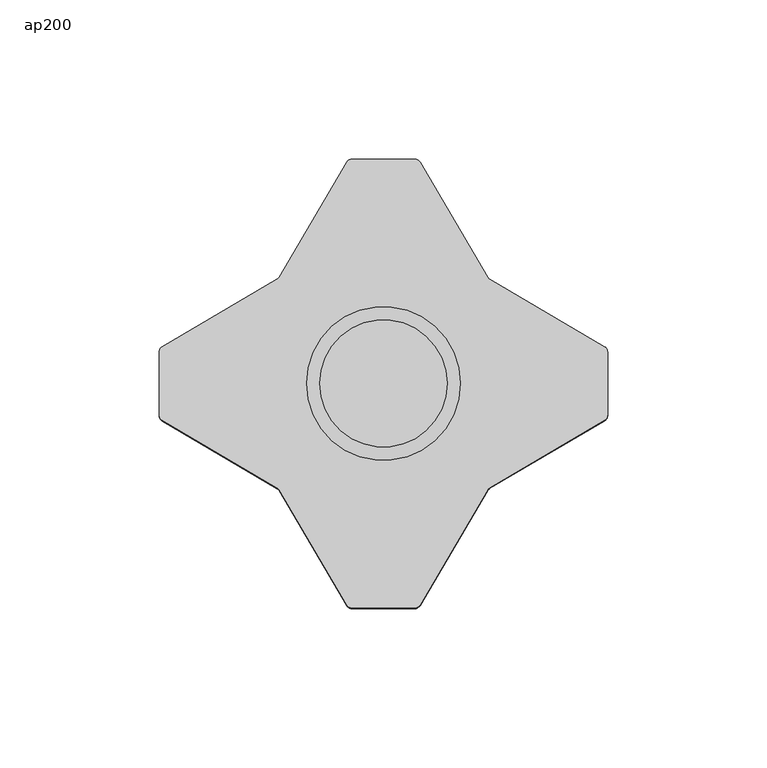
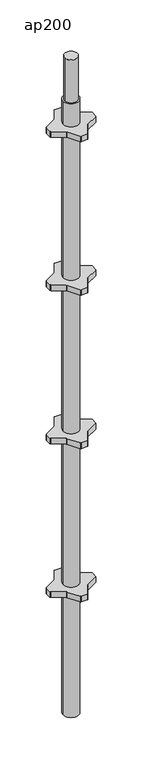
"""IFC4 building model written with IfcOpenShell, lengths in millimetres: proxy geometry, MILLS_ACRAM_POTEAUX  : ap200."""

from ifc_helpers import new_model, si_unit, point, frame, frame_2d, origin, place, context, project, spatial, polyline, circle_curve, trimmed, segment, composite_curve, outline, extrude, source, transform, mapped, element, save


def ap200_66a3c585(model_context):
    return source(origin(), model_context, "Body", "SweptSolid", [
        extrude(outline(composite_curve([segment(trimmed(circle_curve(frame_2d((-69.4239115, 68.5)), 2.0), [point((-69.4239115, 70.5))], [point((-67.6988617, 69.5120292))], False, "CARTESIAN"), True, "CONTINUOUS"), segment(polyline([(-67.6988617, 69.5120292), (-46.5421091, 33.4493827)]), True, "CONTINUOUS"), segment(trimmed(circle_curve(frame_2d((-44.8170593, 34.4614119)), 2.0), [point((-46.5421091, 33.4493827))], [point((-45.8290885, 32.7363621))], True, "CARTESIAN"), True, "CONTINUOUS"), segment(polyline([(-45.8290885, 32.7363621), (-9.7948682, 11.5962862)]), True, "CONTINUOUS"), segment(trimmed(circle_curve(frame_2d((-10.8068975, 9.8712364)), 2.0), [point((-9.7948682, 11.5962862))], [point((-8.8068975, 9.8712364))], False, "CARTESIAN"), True, "CONTINUOUS"), segment(polyline([(-8.8068975, 9.8712364), (-8.8068975, -9.8545597)]), True, "CONTINUOUS"), segment(trimmed(circle_curve(frame_2d((-10.8068975, -9.8545597)), 2.0), [point((-8.8068975, -9.8545597))], [point((-9.7948682, -11.5796095))], False, "CARTESIAN"), True, "CONTINUOUS"), segment(polyline([(-9.7948682, -11.5796095), (-45.8141703, -32.7109334)]), True, "CONTINUOUS"), segment(trimmed(circle_curve(frame_2d((-44.8021411, -34.4359832)), 2.0), [point((-45.8141703, -32.7109334))], [point((-46.5271909, -33.423954))], True, "CARTESIAN"), True, "CONTINUOUS"), segment(polyline([(-46.5271909, -33.423954), (-67.6988617, -69.5120292)]), True, "CONTINUOUS"), segment(trimmed(circle_curve(frame_2d((-69.4239115, -68.5)), 2.0), [point((-67.6988617, -69.5120292))], [point((-69.4239115, -70.5))], False, "CARTESIAN"), True, "CONTINUOUS"), segment(polyline([(-69.4239115, -70.5), (-89.1330309, -70.5)]), True, "CONTINUOUS"), segment(trimmed(circle_curve(frame_2d((-89.1330309, -68.5)), 2.0), [point((-89.1330309, -70.5))], [point((-90.8580808, -69.5120292))], False, "CARTESIAN"), True, "CONTINUOUS"), segment(polyline([(-90.8580808, -69.5120292), (-112.0148334, -33.4493827)]), True, "CONTINUOUS"), segment(trimmed(circle_curve(frame_2d((-113.7398832, -34.4614119)), 2.0), [point((-112.0148334, -33.4493827))], [point((-112.727854, -32.7363621))], True, "CARTESIAN"), True, "CONTINUOUS"), segment(polyline([(-112.727854, -32.7363621), (-148.7905005, -11.5796095)]), True, "CONTINUOUS"), segment(trimmed(circle_curve(frame_2d((-147.7784712, -9.8545597)), 2.0), [point((-148.7905005, -11.5796095))], [point((-149.7784712, -9.8545597))], False, "CARTESIAN"), True, "CONTINUOUS"), segment(polyline([(-149.7784712, -9.8545597), (-149.7784712, 9.8545597)]), True, "CONTINUOUS"), segment(trimmed(circle_curve(frame_2d((-147.7784712, 9.8545597)), 2.0), [point((-149.7784712, 9.8545597))], [point((-148.7905005, 11.5796095))], False, "CARTESIAN"), True, "CONTINUOUS"), segment(polyline([(-148.7905005, 11.5796095), (-112.727854, 32.7363621)]), True, "CONTINUOUS"), segment(trimmed(circle_curve(frame_2d((-113.7398832, 34.4614119)), 2.0), [point((-112.727854, 32.7363621))], [point((-112.0148334, 33.4493827))], True, "CARTESIAN"), True, "CONTINUOUS"), segment(polyline([(-112.0148334, 33.4493827), (-90.8580808, 69.5120292)]), True, "CONTINUOUS"), segment(trimmed(circle_curve(frame_2d((-89.1330309, 68.5)), 2.0), [point((-90.8580808, 69.5120292))], [point((-89.1330309, 70.5))], False, "CARTESIAN"), True, "CONTINUOUS"), segment(polyline([(-89.1330309, 70.5), (-69.4239115, 70.5)]), True, "CONTINUOUS")], self_intersect=False)), frame((0.0, 0.0, 1991.0), z_axis=(0.0, 0.0, 1.0), x_axis=(1.0, 0.0, 0.0)), (0.0, 0.0, 1.0), 18.0),
        extrude(outline(composite_curve([segment(trimmed(circle_curve(frame_2d((-69.4239115, 68.5)), 2.0), [point((-69.4239115, 70.5))], [point((-67.6988617, 69.5120292))], False, "CARTESIAN"), True, "CONTINUOUS"), segment(polyline([(-67.6988617, 69.5120292), (-46.5421091, 33.4493827)]), True, "CONTINUOUS"), segment(trimmed(circle_curve(frame_2d((-44.8170593, 34.4614119)), 2.0), [point((-46.5421091, 33.4493827))], [point((-45.8290885, 32.7363621))], True, "CARTESIAN"), True, "CONTINUOUS"), segment(polyline([(-45.8290885, 32.7363621), (-9.7948682, 11.5962862)]), True, "CONTINUOUS"), segment(trimmed(circle_curve(frame_2d((-10.8068975, 9.8712364)), 2.0), [point((-9.7948682, 11.5962862))], [point((-8.8068975, 9.8712364))], False, "CARTESIAN"), True, "CONTINUOUS"), segment(polyline([(-8.8068975, 9.8712364), (-8.8068975, -9.8545597)]), True, "CONTINUOUS"), segment(trimmed(circle_curve(frame_2d((-10.8068975, -9.8545597)), 2.0), [point((-8.8068975, -9.8545597))], [point((-9.7948682, -11.5796095))], False, "CARTESIAN"), True, "CONTINUOUS"), segment(polyline([(-9.7948682, -11.5796095), (-45.8141703, -32.7109334)]), True, "CONTINUOUS"), segment(trimmed(circle_curve(frame_2d((-44.8021411, -34.4359832)), 2.0), [point((-45.8141703, -32.7109334))], [point((-46.5271909, -33.423954))], True, "CARTESIAN"), True, "CONTINUOUS"), segment(polyline([(-46.5271909, -33.423954), (-67.6988617, -69.5120292)]), True, "CONTINUOUS"), segment(trimmed(circle_curve(frame_2d((-69.4239115, -68.5)), 2.0), [point((-67.6988617, -69.5120292))], [point((-69.4239115, -70.5))], False, "CARTESIAN"), True, "CONTINUOUS"), segment(polyline([(-69.4239115, -70.5), (-89.1330309, -70.5)]), True, "CONTINUOUS"), segment(trimmed(circle_curve(frame_2d((-89.1330309, -68.5)), 2.0), [point((-89.1330309, -70.5))], [point((-90.8580808, -69.5120292))], False, "CARTESIAN"), True, "CONTINUOUS"), segment(polyline([(-90.8580808, -69.5120292), (-112.0148334, -33.4493827)]), True, "CONTINUOUS"), segment(trimmed(circle_curve(frame_2d((-113.7398832, -34.4614119)), 2.0), [point((-112.0148334, -33.4493827))], [point((-112.727854, -32.7363621))], True, "CARTESIAN"), True, "CONTINUOUS"), segment(polyline([(-112.727854, -32.7363621), (-148.7905005, -11.5796095)]), True, "CONTINUOUS"), segment(trimmed(circle_curve(frame_2d((-147.7784712, -9.8545597)), 2.0), [point((-148.7905005, -11.5796095))], [point((-149.7784712, -9.8545597))], False, "CARTESIAN"), True, "CONTINUOUS"), segment(polyline([(-149.7784712, -9.8545597), (-149.7784712, 9.8545597)]), True, "CONTINUOUS"), segment(trimmed(circle_curve(frame_2d((-147.7784712, 9.8545597)), 2.0), [point((-149.7784712, 9.8545597))], [point((-148.7905005, 11.5796095))], False, "CARTESIAN"), True, "CONTINUOUS"), segment(polyline([(-148.7905005, 11.5796095), (-112.727854, 32.7363621)]), True, "CONTINUOUS"), segment(trimmed(circle_curve(frame_2d((-113.7398832, 34.4614119)), 2.0), [point((-112.727854, 32.7363621))], [point((-112.0148334, 33.4493827))], True, "CARTESIAN"), True, "CONTINUOUS"), segment(polyline([(-112.0148334, 33.4493827), (-90.8580808, 69.5120292)]), True, "CONTINUOUS"), segment(trimmed(circle_curve(frame_2d((-89.1330309, 68.5)), 2.0), [point((-90.8580808, 69.5120292))], [point((-89.1330309, 70.5))], False, "CARTESIAN"), True, "CONTINUOUS"), segment(polyline([(-89.1330309, 70.5), (-69.4239115, 70.5)]), True, "CONTINUOUS")], self_intersect=False)), frame((0.0, 0.0, 1491.0), z_axis=(0.0, 0.0, 1.0), x_axis=(1.0, 0.0, 0.0)), (0.0, 0.0, 1.0), 18.0),
        extrude(outline(composite_curve([segment(trimmed(circle_curve(frame_2d((-69.4239115, 68.5)), 2.0), [point((-69.4239115, 70.5))], [point((-67.6988617, 69.5120292))], False, "CARTESIAN"), True, "CONTINUOUS"), segment(polyline([(-67.6988617, 69.5120292), (-46.5421091, 33.4493827)]), True, "CONTINUOUS"), segment(trimmed(circle_curve(frame_2d((-44.8170593, 34.4614119)), 2.0), [point((-46.5421091, 33.4493827))], [point((-45.8290885, 32.7363621))], True, "CARTESIAN"), True, "CONTINUOUS"), segment(polyline([(-45.8290885, 32.7363621), (-9.7948682, 11.5962862)]), True, "CONTINUOUS"), segment(trimmed(circle_curve(frame_2d((-10.8068975, 9.8712364)), 2.0), [point((-9.7948682, 11.5962862))], [point((-8.8068975, 9.8712364))], False, "CARTESIAN"), True, "CONTINUOUS"), segment(polyline([(-8.8068975, 9.8712364), (-8.8068975, -9.8545597)]), True, "CONTINUOUS"), segment(trimmed(circle_curve(frame_2d((-10.8068975, -9.8545597)), 2.0), [point((-8.8068975, -9.8545597))], [point((-9.7948682, -11.5796095))], False, "CARTESIAN"), True, "CONTINUOUS"), segment(polyline([(-9.7948682, -11.5796095), (-45.8141703, -32.7109334)]), True, "CONTINUOUS"), segment(trimmed(circle_curve(frame_2d((-44.8021411, -34.4359832)), 2.0), [point((-45.8141703, -32.7109334))], [point((-46.5271909, -33.423954))], True, "CARTESIAN"), True, "CONTINUOUS"), segment(polyline([(-46.5271909, -33.423954), (-67.6988617, -69.5120292)]), True, "CONTINUOUS"), segment(trimmed(circle_curve(frame_2d((-69.4239115, -68.5)), 2.0), [point((-67.6988617, -69.5120292))], [point((-69.4239115, -70.5))], False, "CARTESIAN"), True, "CONTINUOUS"), segment(polyline([(-69.4239115, -70.5), (-89.1330309, -70.5)]), True, "CONTINUOUS"), segment(trimmed(circle_curve(frame_2d((-89.1330309, -68.5)), 2.0), [point((-89.1330309, -70.5))], [point((-90.8580808, -69.5120292))], False, "CARTESIAN"), True, "CONTINUOUS"), segment(polyline([(-90.8580808, -69.5120292), (-112.0148334, -33.4493827)]), True, "CONTINUOUS"), segment(trimmed(circle_curve(frame_2d((-113.7398832, -34.4614119)), 2.0), [point((-112.0148334, -33.4493827))], [point((-112.727854, -32.7363621))], True, "CARTESIAN"), True, "CONTINUOUS"), segment(polyline([(-112.727854, -32.7363621), (-148.7905005, -11.5796095)]), True, "CONTINUOUS"), segment(trimmed(circle_curve(frame_2d((-147.7784712, -9.8545597)), 2.0), [point((-148.7905005, -11.5796095))], [point((-149.7784712, -9.8545597))], False, "CARTESIAN"), True, "CONTINUOUS"), segment(polyline([(-149.7784712, -9.8545597), (-149.7784712, 9.8545597)]), True, "CONTINUOUS"), segment(trimmed(circle_curve(frame_2d((-147.7784712, 9.8545597)), 2.0), [point((-149.7784712, 9.8545597))], [point((-148.7905005, 11.5796095))], False, "CARTESIAN"), True, "CONTINUOUS"), segment(polyline([(-148.7905005, 11.5796095), (-112.727854, 32.7363621)]), True, "CONTINUOUS"), segment(trimmed(circle_curve(frame_2d((-113.7398832, 34.4614119)), 2.0), [point((-112.727854, 32.7363621))], [point((-112.0148334, 33.4493827))], True, "CARTESIAN"), True, "CONTINUOUS"), segment(polyline([(-112.0148334, 33.4493827), (-90.8580808, 69.5120292)]), True, "CONTINUOUS"), segment(trimmed(circle_curve(frame_2d((-89.1330309, 68.5)), 2.0), [point((-90.8580808, 69.5120292))], [point((-89.1330309, 70.5))], False, "CARTESIAN"), True, "CONTINUOUS"), segment(polyline([(-89.1330309, 70.5), (-69.4239115, 70.5)]), True, "CONTINUOUS")], self_intersect=False)), frame((0.0, 0.0, 991.0), z_axis=(0.0, 0.0, 1.0), x_axis=(1.0, 0.0, 0.0)), (0.0, 0.0, 1.0), 18.0),
        extrude(outline(composite_curve([segment(trimmed(circle_curve(frame_2d((-69.4239115, 68.5)), 2.0), [point((-69.4239115, 70.5))], [point((-67.6988617, 69.5120292))], False, "CARTESIAN"), True, "CONTINUOUS"), segment(polyline([(-67.6988617, 69.5120292), (-46.5421091, 33.4493827)]), True, "CONTINUOUS"), segment(trimmed(circle_curve(frame_2d((-44.8170593, 34.4614119)), 2.0), [point((-46.5421091, 33.4493827))], [point((-45.8290885, 32.7363621))], True, "CARTESIAN"), True, "CONTINUOUS"), segment(polyline([(-45.8290885, 32.7363621), (-9.7948682, 11.5962862)]), True, "CONTINUOUS"), segment(trimmed(circle_curve(frame_2d((-10.8068975, 9.8712364)), 2.0), [point((-9.7948682, 11.5962862))], [point((-8.8068975, 9.8712364))], False, "CARTESIAN"), True, "CONTINUOUS"), segment(polyline([(-8.8068975, 9.8712364), (-8.8068975, -9.8545597)]), True, "CONTINUOUS"), segment(trimmed(circle_curve(frame_2d((-10.8068975, -9.8545597)), 2.0), [point((-8.8068975, -9.8545597))], [point((-9.7948682, -11.5796095))], False, "CARTESIAN"), True, "CONTINUOUS"), segment(polyline([(-9.7948682, -11.5796095), (-45.8141703, -32.7109334)]), True, "CONTINUOUS"), segment(trimmed(circle_curve(frame_2d((-44.8021411, -34.4359832)), 2.0), [point((-45.8141703, -32.7109334))], [point((-46.5271909, -33.423954))], True, "CARTESIAN"), True, "CONTINUOUS"), segment(polyline([(-46.5271909, -33.423954), (-67.6988617, -69.5120292)]), True, "CONTINUOUS"), segment(trimmed(circle_curve(frame_2d((-69.4239115, -68.5)), 2.0), [point((-67.6988617, -69.5120292))], [point((-69.4239115, -70.5))], False, "CARTESIAN"), True, "CONTINUOUS"), segment(polyline([(-69.4239115, -70.5), (-89.1330309, -70.5)]), True, "CONTINUOUS"), segment(trimmed(circle_curve(frame_2d((-89.1330309, -68.5)), 2.0), [point((-89.1330309, -70.5))], [point((-90.8580808, -69.5120292))], False, "CARTESIAN"), True, "CONTINUOUS"), segment(polyline([(-90.8580808, -69.5120292), (-112.0148334, -33.4493827)]), True, "CONTINUOUS"), segment(trimmed(circle_curve(frame_2d((-113.7398832, -34.4614119)), 2.0), [point((-112.0148334, -33.4493827))], [point((-112.727854, -32.7363621))], True, "CARTESIAN"), True, "CONTINUOUS"), segment(polyline([(-112.727854, -32.7363621), (-148.7905005, -11.5796095)]), True, "CONTINUOUS"), segment(trimmed(circle_curve(frame_2d((-147.7784712, -9.8545597)), 2.0), [point((-148.7905005, -11.5796095))], [point((-149.7784712, -9.8545597))], False, "CARTESIAN"), True, "CONTINUOUS"), segment(polyline([(-149.7784712, -9.8545597), (-149.7784712, 9.8545597)]), True, "CONTINUOUS"), segment(trimmed(circle_curve(frame_2d((-147.7784712, 9.8545597)), 2.0), [point((-149.7784712, 9.8545597))], [point((-148.7905005, 11.5796095))], False, "CARTESIAN"), True, "CONTINUOUS"), segment(polyline([(-148.7905005, 11.5796095), (-112.727854, 32.7363621)]), True, "CONTINUOUS"), segment(trimmed(circle_curve(frame_2d((-113.7398832, 34.4614119)), 2.0), [point((-112.727854, 32.7363621))], [point((-112.0148334, 33.4493827))], True, "CARTESIAN"), True, "CONTINUOUS"), segment(polyline([(-112.0148334, 33.4493827), (-90.8580808, 69.5120292)]), True, "CONTINUOUS"), segment(trimmed(circle_curve(frame_2d((-89.1330309, 68.5)), 2.0), [point((-90.8580808, 69.5120292))], [point((-89.1330309, 70.5))], False, "CARTESIAN"), True, "CONTINUOUS"), segment(polyline([(-89.1330309, 70.5), (-69.4239115, 70.5)]), True, "CONTINUOUS")], self_intersect=False)), frame((0.0, 0.0, 491.0), z_axis=(0.0, 0.0, 1.0), x_axis=(1.0, 0.0, 0.0)), (0.0, 0.0, 1.0), 18.0),
        extrude(outline(composite_curve([segment(trimmed(circle_curve(frame_2d((-79.2784712, 0.0)), 20.0), [point((-99.2784712, 0.0))], [point((-59.2784712, 0.0))], False, "CARTESIAN"), True, "CONTINUOUS"), segment(trimmed(circle_curve(frame_2d((-79.2784712, 0.0)), 20.0), [point((-59.2784712, 0.0))], [point((-99.2784712, 0.0))], False, "CARTESIAN"), True, "CONTINUOUS")], self_intersect=False)), frame((0.0, 0.0, 2085.0), z_axis=(0.0, 0.0, 1.0), x_axis=(1.0, 0.0, 0.0)), (0.0, 0.0, 1.0), 140.0),
        extrude(outline(composite_curve([segment(trimmed(circle_curve(frame_2d((-79.2784712, 0.0)), 24.15), [point((-103.4284712, 0.0))], [point((-55.1284712, 0.0))], False, "CARTESIAN"), True, "CONTINUOUS"), segment(trimmed(circle_curve(frame_2d((-79.2784712, 0.0)), 24.15), [point((-55.1284712, 0.0))], [point((-103.4284712, 0.0))], False, "CARTESIAN"), True, "CONTINUOUS")], self_intersect=False)), frame((0.0, 0.0, 85.0), z_axis=(0.0, 0.0, 1.0), x_axis=(1.0, 0.0, 0.0)), (0.0, 0.0, 1.0), 2000.0),
    ])


if __name__ == "__main__":
    model = new_model("IFC4")
    model_context = context("Model", 3, world=origin())
    ifc_project = project(units=[si_unit("LENGTHUNIT", "METRE", prefix="MILLI")], contexts=[model_context])
    site = spatial("IfcSite", under=ifc_project)
    building = spatial("IfcBuilding", under=site)
    placement = place(None, origin())
    ap200_shape = ap200_66a3c585(model_context)
    element("IfcBuildingElementProxy", 1, Name="MILLS_ACRAM_POTEAUX  : ap200", ObjectType="MILLS_ACRAM_POTEAUX  : ap200", at=placement, inside=building, context=model_context, shape_type="MappedRepresentation", body=[
        mapped(ap200_shape, transform((0.0, 0.0, 0.0), x_axis=(1.0, 0.0, 0.0), y_axis=(0.0, 1.0, 0.0), z_axis=(0.0, 0.0, 1.0))),
    ])
    save(model, "model.ifc")
